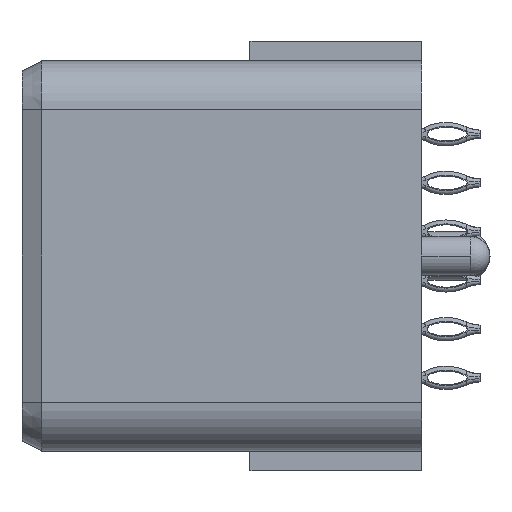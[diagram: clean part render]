
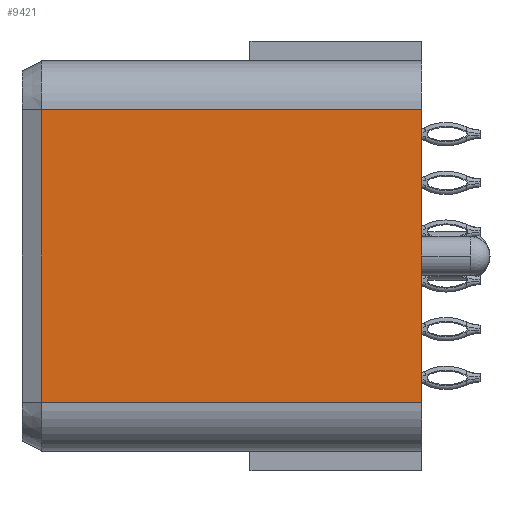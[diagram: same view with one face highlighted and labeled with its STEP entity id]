
A CAD part, left-side view. The second image highlights one B-rep face of the part: STEP entity #9421.
In plain terms, the highlighted planar face has unit normal (-1, 0, 0).
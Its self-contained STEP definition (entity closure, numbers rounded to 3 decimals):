
#3274=FACE_OUTER_BOUND('',#17916,.T.);
#9421=ADVANCED_FACE('',(#3274),#13347,.T.);
#13347=PLANE('',#72475);
#17916=EDGE_LOOP('',(#23763,#23764,#23765,#23766));
#23763=ORIENTED_EDGE('',*,*,#51204,.F.);
#23764=ORIENTED_EDGE('',*,*,#51244,.F.);
#23765=ORIENTED_EDGE('',*,*,#51243,.F.);
#23766=ORIENTED_EDGE('',*,*,#51239,.F.);
#44241=VERTEX_POINT('',#100785);
#44242=VERTEX_POINT('',#100787);
#44269=VERTEX_POINT('',#100857);
#44270=VERTEX_POINT('',#100863);
#51204=EDGE_CURVE('',#44241,#44242,#61519,.T.);
#51239=EDGE_CURVE('',#44242,#44269,#61539,.T.);
#51243=EDGE_CURVE('',#44269,#44270,#61542,.T.);
#51244=EDGE_CURVE('',#44270,#44241,#61543,.T.);
#61519=LINE('',#100786,#67115);
#61539=LINE('',#100856,#67135);
#61542=LINE('',#100864,#67138);
#61543=LINE('',#100866,#67139);
#67115=VECTOR('',#80531,1.);
#67135=VECTOR('',#80597,1.);
#67138=VECTOR('',#80606,1.);
#67139=VECTOR('',#80609,1.);
#72475=AXIS2_PLACEMENT_3D('',#100867,#80610,#80611);
#80531=DIRECTION('',(0.,0.,-1.));
#80597=DIRECTION('',(0.,1.,0.));
#80606=DIRECTION('',(0.,0.,1.));
#80609=DIRECTION('',(0.,-1.,0.));
#80610=DIRECTION('',(-1.,0.,0.));
#80611=DIRECTION('',(0.,0.,1.));
#100785=CARTESIAN_POINT('',(-35.15,0.,7.5));
#100786=CARTESIAN_POINT('',(-35.15,0.,7.5));
#100787=CARTESIAN_POINT('',(-35.15,0.,-7.5));
#100856=CARTESIAN_POINT('',(-35.15,0.,-7.5));
#100857=CARTESIAN_POINT('',(-35.15,19.5,-7.5));
#100863=CARTESIAN_POINT('',(-35.15,19.5,7.5));
#100864=CARTESIAN_POINT('',(-35.15,19.5,-7.5));
#100866=CARTESIAN_POINT('',(-35.15,19.5,7.5));
#100867=CARTESIAN_POINT('',(-35.15,25.513,7.75));
